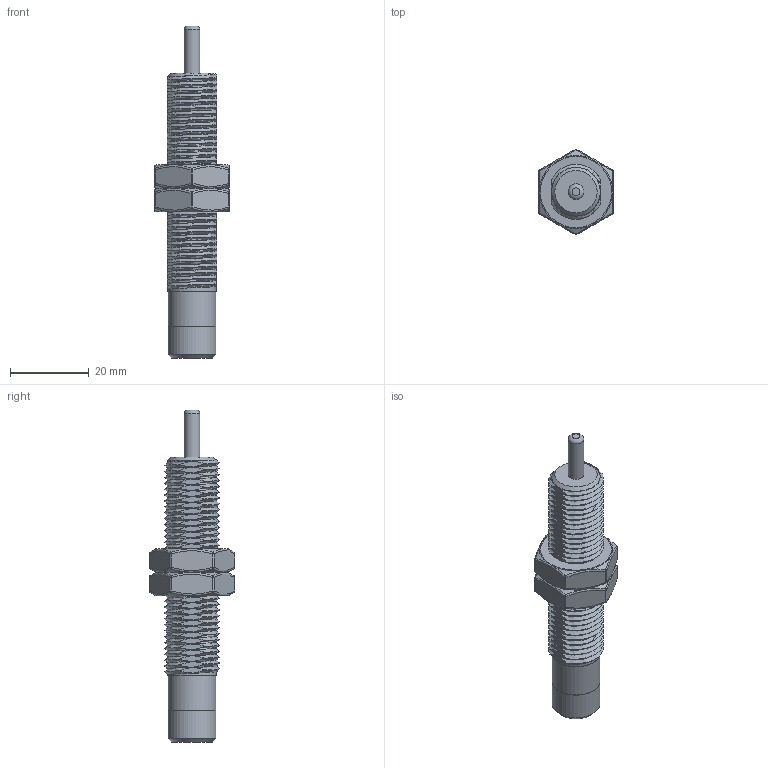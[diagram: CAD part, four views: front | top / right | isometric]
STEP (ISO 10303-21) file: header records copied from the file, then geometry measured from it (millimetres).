
FILE_DESCRIPTION(('STEP AP203'),'1');
FILE_NAME('C:/Documents and Settings/User/官帕 拳搁/KMA14-12.stp',' ',(' '),(' '),'XStep 1.0',' ',' ');
FILE_SCHEMA(('CONFIG_CONTROL_DESIGN'));
Length unit declared in the file: metre
Products named in the file (2): Assembly159; Assembly160
Bounding box: 19 x 21.78 x 84.5 mm (x, y, z)
Volume: 25573 mm3; surface area: 22029 mm2
Topology: 14 solids, 14 shells, 400 faces, 964 edges, 594 vertices
Faces by surface type: plane 198, bspline 54, cone 52, sphere 48, cylinder 38, torus 10
Full cylindrical faces by diameter (mm): 4 x2, 12 x2, 12.2 x4, 12.376 x2, 12.5 x4
Entity records: 14501 total; most frequent: CARTESIAN_POINT 10550, ORIENTED_EDGE 924, DIRECTION 625, EDGE_CURVE 462, AXIS2_PLACEMENT_3D 299, VERTEX_POINT 291, B_SPLINE_CURVE_WITH_KNOTS 243, EDGE_LOOP 219
